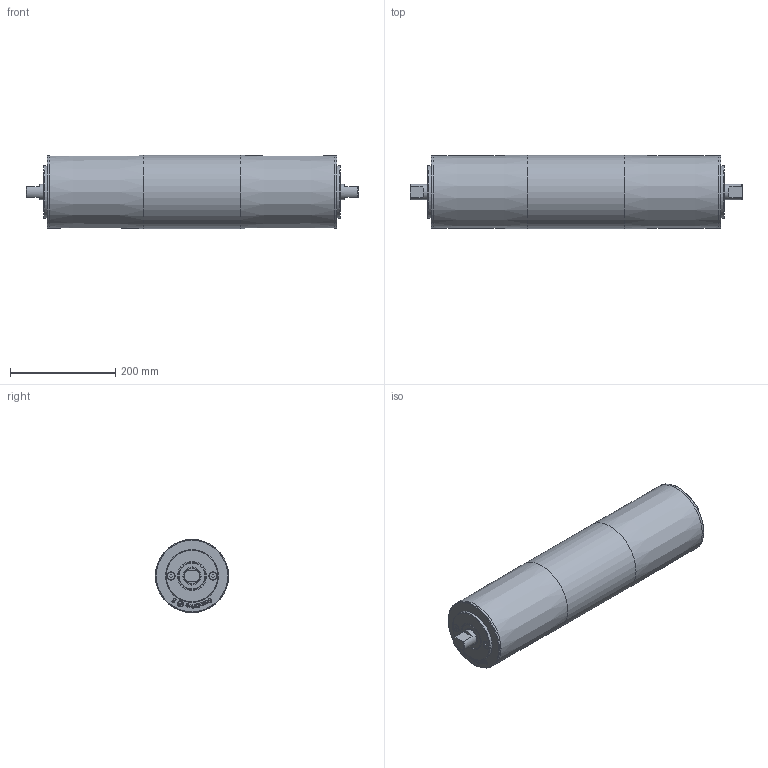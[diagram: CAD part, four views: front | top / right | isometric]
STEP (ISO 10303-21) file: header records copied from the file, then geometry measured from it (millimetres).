
FILE_DESCRIPTION(/* description */ (''),/* implementation_level */ '2;1');
FILE_NAME(/* name */ 'C:\WF_Ellegaard\Designs\00 standart komponenter\Tromlemotor\Scandrive S\Ø138\Scandrive S Ø138 RL550.stp',/* time_stamp */ '2017-06-13T17:01:56+02:00',/* author */ ('GUH'),/* organization */ (''),/* preprocessor_version */ 'ST-DEVELOPER v16.13',/* originating_system */ 'Autodesk Inventor 2018',/* authorisation */ '');
FILE_SCHEMA (('AUTOMOTIVE_DESIGN { 1 0 10303 214 3 1 1 }'));
Length unit declared in the file: millimetre
Products named in the file (1): Scandrive S Ø138 RL550
Bounding box: 630 x 139 x 139 mm (x, y, z)
Volume: 1257320 mm3; surface area: 531373.8 mm2
Topology: 1 solids, 2 shells, 484 faces, 1254 edges, 834 vertices
Faces by surface type: plane 254, bspline 196, cylinder 22, cone 6, torus 6
Full cylindrical faces by diameter (mm): 14 x2, 16 x2, 30 x2, 34 x2, 34.2 x2, 54.98 x2, 55 x2, 100 x2, 130 x1, 137.48 x2, 137.5 x2, 139 x1
Entity records: 15613 total; most frequent: CARTESIAN_POINT 5103, ORIENTED_EDGE 2444, DIRECTION 1464, EDGE_CURVE 1222, VERTEX_POINT 832, LINE 758, VECTOR 758, EDGE_LOOP 574
